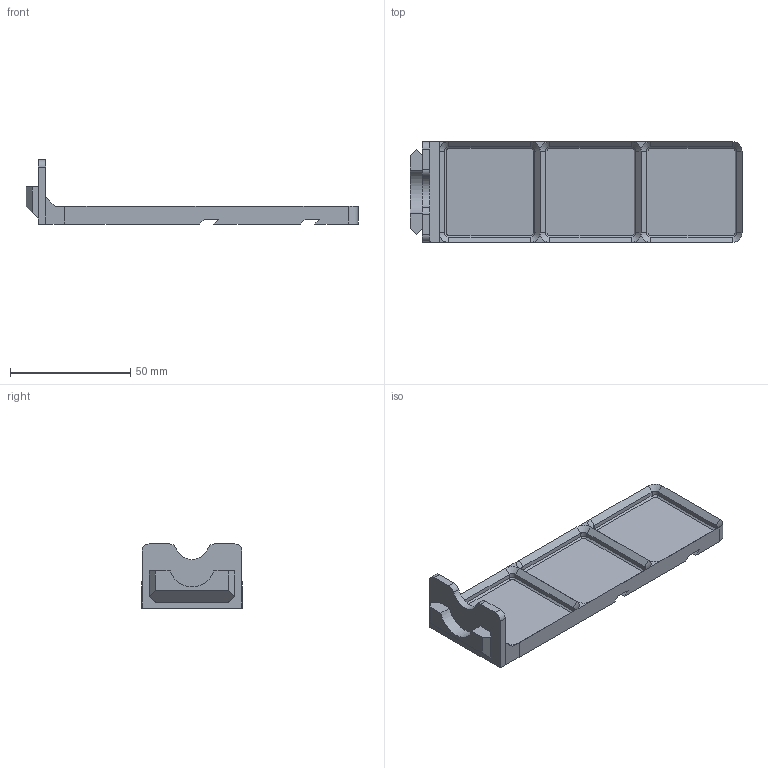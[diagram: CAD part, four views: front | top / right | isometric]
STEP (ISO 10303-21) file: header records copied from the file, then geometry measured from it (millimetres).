
FILE_DESCRIPTION(/* description */ ('','CAx-IF Rec.Pracs.---Representation and Presentation of Product Manufacturing Information (PMI)---4.0---2014-10-13'),/* implementation_level */ '2;1');
FILE_NAME(/* name */ 'Goews Triple Hanger Gridfinity 1x3 Base.step',/* time_stamp */ '2024-12-14T22:42:10-05:00',/* author */ (''),/* organization */ (''),/* preprocessor_version */ 'ST-DEVELOPER v20',/* originating_system */ 'Autodesk Translation Framework v13.20.0.188',/* authorisation */ '');
FILE_SCHEMA (('AP242_MANAGED_MODEL_BASED_3D_ENGINEERING_MIM_LF { 1 0 10303 442 1 1 4 }'));
Length unit declared in the file: millimetre
Products named in the file (1): Goews Triple Hanger Gridfinity 1x3 Base
Bounding box: 138.15 x 42 x 26.72 mm (x, y, z)
Volume: 23422.6 mm3; surface area: 17416.2 mm2
Topology: 1 solids, 1 shells, 132 faces, 305 edges, 176 vertices
Faces by surface type: plane 78, cylinder 30, cone 24
Entity records: 3660 total; most frequent: DIRECTION 645, CARTESIAN_POINT 614, ORIENTED_EDGE 610, EDGE_CURVE 305, LINE 231, VECTOR 231, AXIS2_PLACEMENT_3D 207, VERTEX_POINT 176
